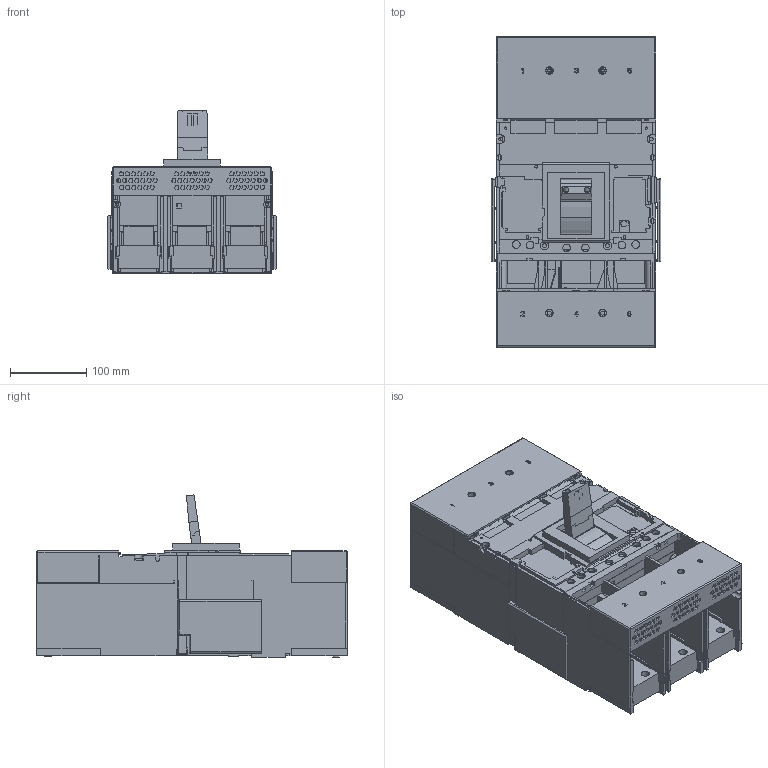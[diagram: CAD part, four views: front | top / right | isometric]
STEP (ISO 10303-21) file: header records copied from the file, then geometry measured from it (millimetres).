
FILE_DESCRIPTION((''),'2;1');
FILE_NAME('2253036300_ASM_79_SW0001','2021-06-21T',('gang.sun'),(''),'PRO/ENGINEER BY PARAMETRIC TECHNOLOGY CORPORATION, 2015440','PRO/ENGINEER BY PARAMETRIC TECHNOLOGY CORPORATION, 2015440','');
FILE_SCHEMA(('CONFIG_CONTROL_DESIGN'));
Products named in the file (1): 2253036300_ASM_79_SW0001
Bounding box: 223 x 407.87 x 213.19 mm (x, y, z)
Volume: 7552414.9 mm3; surface area: 1043689.9 mm2
Topology: 2 solids, 2 shells, 4524 faces, 13450 edges, 8952 vertices
Faces by surface type: plane 3543, cylinder 853, torus 82, sphere 24, cone 18, bspline 4
Entity records: 152990 total; most frequent: CARTESIAN_POINT 29013, ORIENTED_EDGE 26844, DIRECTION 24478, EDGE_CURVE 13422, VECTOR 10920, LINE 10920, VERTEX_POINT 8952, AXIS2_PLACEMENT_3D 6779
